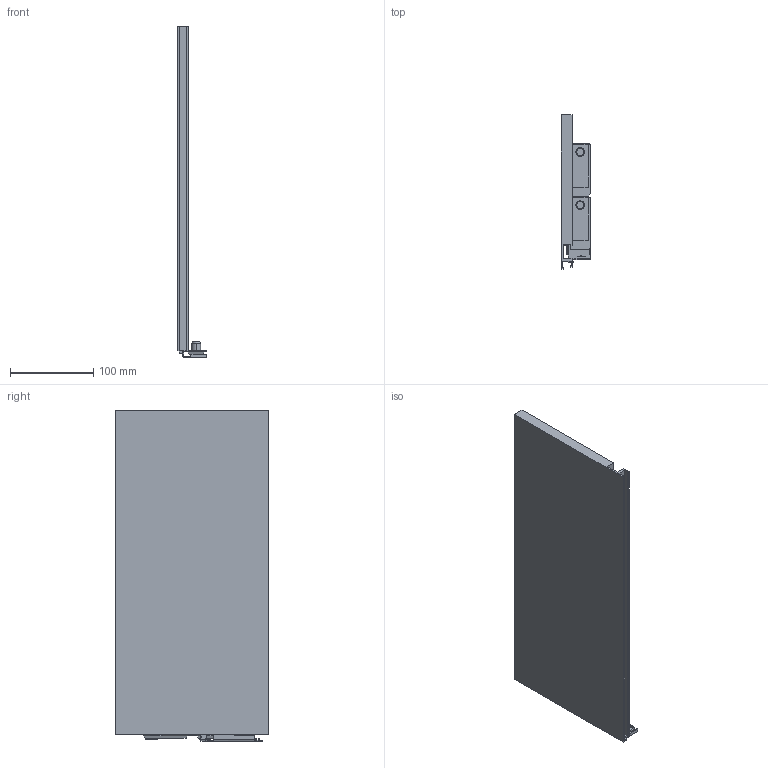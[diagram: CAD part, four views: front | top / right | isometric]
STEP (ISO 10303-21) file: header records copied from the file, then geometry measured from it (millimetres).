
FILE_DESCRIPTION (( 'STEP AP214' ), '1' );
FILE_NAME ('Vionaro_Alu-Zarge_H185_NL400_LI.STEP', '2014-08-20T14:28:40', ( '' ), ( '' ), 'SwSTEP 2.0', 'SolidWorks 2013', '' );
FILE_SCHEMA (( 'AUTOMOTIVE_DESIGN' ));
Length unit declared in the file: millimetre
Products named in the file (1): Vionaro_Alu-Zarge_H185_NL400_LI
Bounding box: 35.6 x 185 x 397.9 mm (x, y, z)
Volume: 848234.8 mm3; surface area: 185236.4 mm2
Topology: 1 solids, 1 shells, 136 faces, 356 edges, 233 vertices
Faces by surface type: plane 96, cylinder 32, cone 8
Entity records: 4187 total; most frequent: CARTESIAN_POINT 732, ORIENTED_EDGE 712, DIRECTION 701, EDGE_CURVE 356, LINE 281, VECTOR 281, VERTEX_POINT 233, AXIS2_PLACEMENT_3D 210
